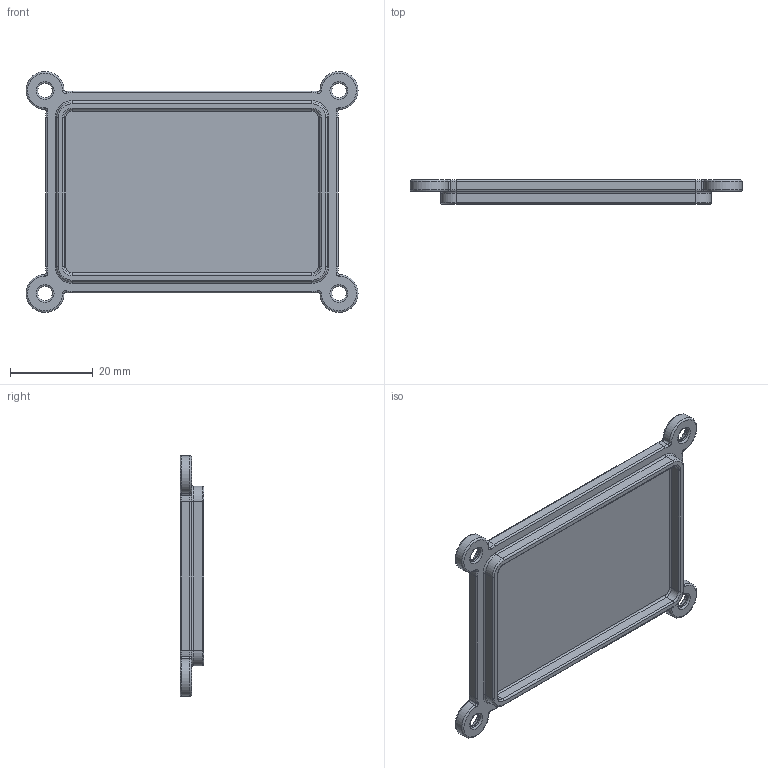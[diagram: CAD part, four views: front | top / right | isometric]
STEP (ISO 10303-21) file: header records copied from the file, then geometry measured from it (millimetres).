
FILE_DESCRIPTION(('Open CASCADE Model'),'2;1');
FILE_NAME('Open CASCADE Shape Model','2026-11-19T06:38:57',('Author'),( 'Open CASCADE'),'Open CASCADE STEP processor 8.0','Open CASCADE 8.0' ,'Unknown');
FILE_SCHEMA(('AUTOMOTIVE_DESIGN { 1 0 10303 214 1 1 1 1 }'));
Length unit declared in the file: millimetre
Products named in the file (1): Open CASCADE STEP translator 8.0 8
Bounding box: 80.25 x 5.8 x 58.25 mm (x, y, z)
Volume: 11079.1 mm3; surface area: 9183.6 mm2
Topology: 1 solids, 1 shells, 152 faces, 336 edges, 192 vertices
Faces by surface type: torus 72, cylinder 52, plane 20, bspline 8
Full cylindrical faces by diameter (mm): 3.55 x4, 6.35 x4
Entity records: 9034 total; most frequent: CARTESIAN_POINT 2365, DIRECTION 1274, ORIENTED_EDGE 672, PCURVE 672, DEFINITIONAL_REPRESENTATION 672, LINE 456, VECTOR 456, AXIS2_PLACEMENT_3D 385
